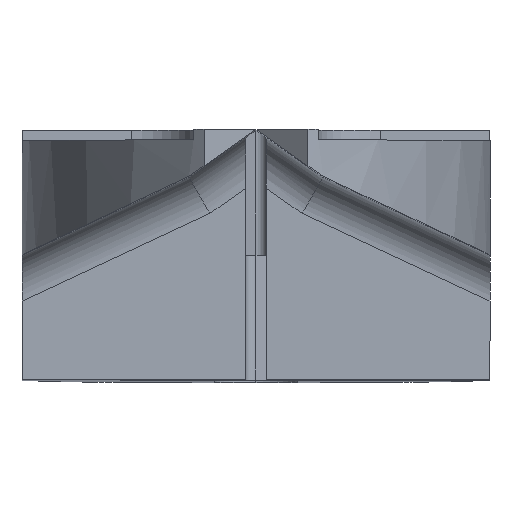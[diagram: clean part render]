
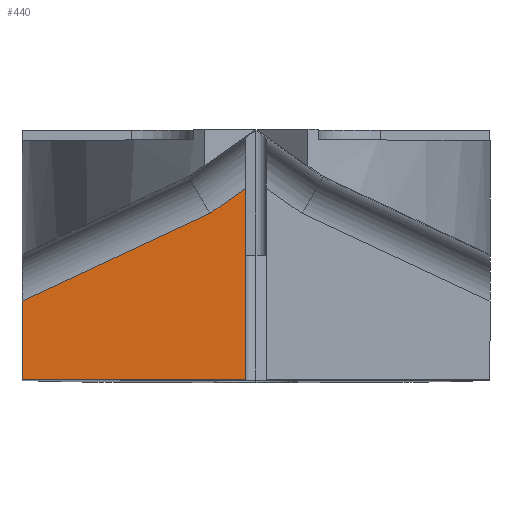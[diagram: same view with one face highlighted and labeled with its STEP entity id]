
A CAD part, top view. The second image highlights one B-rep face of the part: STEP entity #440.
In plain terms, the highlighted planar face has unit normal (0, 0, 1).
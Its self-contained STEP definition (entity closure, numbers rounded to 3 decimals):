
#22 = DIRECTION ( 'NONE',  ( -0.906, -0.423, 0. ) ) ;
#111 = FACE_OUTER_BOUND ( 'NONE', #4880, .T. ) ;
#135 = PLANE ( 'NONE',  #2154 ) ;
#153 = DIRECTION ( 'NONE',  ( 0., 0., 1. ) ) ;
#164 = CARTESIAN_POINT ( 'NONE',  ( -5.875, 0., 15. ) ) ;
#168 = DIRECTION ( 'NONE',  ( 1., 0., 0. ) ) ;
#299 = LINE ( 'NONE', #4692, #1068 ) ;
#428 = VECTOR ( 'NONE', #762, 1000. ) ;
#440 = ADVANCED_FACE ( 'NONE', ( #111 ), #135, .T. ) ;
#546 = DIRECTION ( 'NONE',  ( 1., 0., 0. ) ) ;
#660 = CARTESIAN_POINT ( 'NONE',  ( -2.22, 8.004, 15. ) ) ;
#685 = VERTEX_POINT ( 'NONE', #1028 ) ;
#762 = DIRECTION ( 'NONE',  ( 0., -1., 0. ) ) ;
#780 = DIRECTION ( 'NONE',  ( 0., -1., 0. ) ) ;
#816 = LINE ( 'NONE', #164, #1725 ) ;
#1028 = CARTESIAN_POINT ( 'NONE',  ( -0.5, 9.208, 15. ) ) ;
#1068 = VECTOR ( 'NONE', #2327, 1000. ) ;
#1196 = VECTOR ( 'NONE', #780, 1000. ) ;
#1320 = LINE ( 'NONE', #2310, #1196 ) ;
#1378 = VERTEX_POINT ( 'NONE', #3253 ) ;
#1470 = EDGE_CURVE ( 'NONE', #1653, #1874, #2219, .T. ) ;
#1491 = EDGE_CURVE ( 'NONE', #1653, #685, #299, .T. ) ;
#1538 = ORIENTED_EDGE ( 'NONE', *, *, #2478, .T. ) ;
#1653 = VERTEX_POINT ( 'NONE', #660 ) ;
#1725 = VECTOR ( 'NONE', #546, 1000. ) ;
#1756 = ORIENTED_EDGE ( 'NONE', *, *, #1470, .T. ) ;
#1874 = VERTEX_POINT ( 'NONE', #4489 ) ;
#2154 = AXIS2_PLACEMENT_3D ( 'NONE', #3668, #153, #168 ) ;
#2219 = LINE ( 'NONE', #2770, #3130 ) ;
#2310 = CARTESIAN_POINT ( 'NONE',  ( -11.25, 4.604, 15. ) ) ;
#2327 = DIRECTION ( 'NONE',  ( 0.819, 0.574, 0. ) ) ;
#2478 = EDGE_CURVE ( 'NONE', #3641, #1378, #816, .T. ) ;
#2638 = CARTESIAN_POINT ( 'NONE',  ( -0.5, 6., 15. ) ) ;
#2770 = CARTESIAN_POINT ( 'NONE',  ( -2.22, 8.004, 15. ) ) ;
#2807 = ORIENTED_EDGE ( 'NONE', *, *, #1491, .F. ) ;
#3130 = VECTOR ( 'NONE', #22, 1000. ) ;
#3253 = CARTESIAN_POINT ( 'NONE',  ( -0.5, 0., 15. ) ) ;
#3380 = LINE ( 'NONE', #2638, #428 ) ;
#3508 = CARTESIAN_POINT ( 'NONE',  ( -11.25, 0., 15. ) ) ;
#3529 = EDGE_CURVE ( 'NONE', #685, #1378, #3380, .T. ) ;
#3541 = EDGE_CURVE ( 'NONE', #1874, #3641, #1320, .T. ) ;
#3641 = VERTEX_POINT ( 'NONE', #3508 ) ;
#3668 = CARTESIAN_POINT ( 'NONE',  ( -12.325, -0.921, 15. ) ) ;
#3674 = ORIENTED_EDGE ( 'NONE', *, *, #3541, .T. ) ;
#4489 = CARTESIAN_POINT ( 'NONE',  ( -11.25, 3.793, 15. ) ) ;
#4692 = CARTESIAN_POINT ( 'NONE',  ( -1.123, 8.772, 15. ) ) ;
#4880 = EDGE_LOOP ( 'NONE', ( #1538, #4976, #2807, #1756, #3674 ) ) ;
#4976 = ORIENTED_EDGE ( 'NONE', *, *, #3529, .F. ) ;
